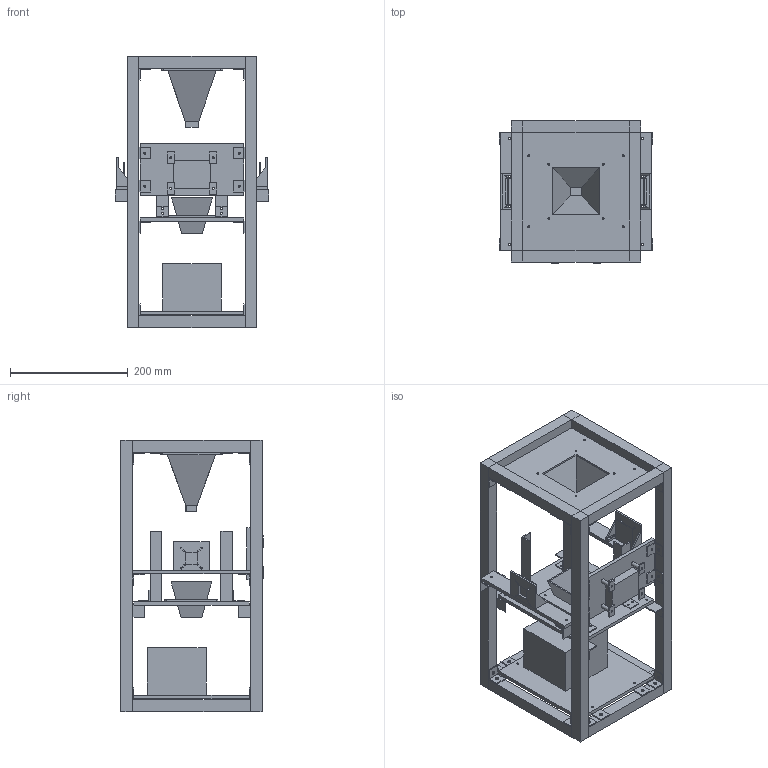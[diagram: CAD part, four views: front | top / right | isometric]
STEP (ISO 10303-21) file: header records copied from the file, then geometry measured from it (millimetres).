
FILE_DESCRIPTION(('Open CASCADE Model'),'2;1');
FILE_NAME('Open CASCADE Shape Model','2026-10-23T20:24:41',('Author'),( 'Open CASCADE'),'Open CASCADE STEP processor 7.8','Open CASCADE 7.8' ,'Unknown');
FILE_SCHEMA(('AUTOMOTIVE_DESIGN { 1 0 10303 214 1 1 1 1 }'));
Length unit declared in the file: millimetre
Products named in the file (79): H3_P5_MANUAL_MECHANICAL_REFERENCE; P13; T01; T02; T03; T04; T05; T06; T07; T08; T09; T10; T11; T12; W01; W03; F05; F06; F07; F08; A01; A02; A03; A04; A09; A10; A11; A12; BCL1; BST1; BCL2; BST2; BCL3; BST3; BCL4; BST4; FC_X_011; FC_Y_011; FC_X_010; FC_Y_010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
Assembly tree (78 placements, depth 2):
  H3_P5_MANUAL_MECHANICAL_REFERENCE
    P13
    T01
    T02
    T03
    T04
    T05
    T06
    T07
    T08
    T09
    T10
    T11
    T12
    W01
    W03
    F05
    F06
    F07
    F08
    A01
    A02
    A03
    A04
    A09
    A10
    A11
    A12
    BCL1
    BST1
    BCL2
    BST2
    BCL3
    BST3
    BCL4
    BST4
    FC_X_011
    FC_Y_011
    FC_X_010
    FC_Y_010
    FC_X_001
    FC_Y_001
    FC_X_000
    FC_Y_000
    FC_X_111
    FC_Y_111
    FC_X_110
    FC_Y_110
    FC_X_101
    FC_Y_101
    FC_X_100
    FC_Y_100
    H01
    H21
    W02
    C01
    P11
    F01
    F02
    F03
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Bounding box: 260 x 242 x 460 mm (x, y, z)
Volume: 3091735.1 mm3; surface area: 847527.3 mm2
Topology: 78 solids, 78 shells, 820 faces, 2000 edges, 1332 vertices
Faces by surface type: plane 604, cylinder 196, bspline 20
Full cylindrical faces by diameter (mm): 3.2 x4, 3.4 x92, 5.5 x60, 7 x4
Entity records: 51858 total; most frequent: CARTESIAN_POINT 8735, DIRECTION 7944, LINE 5032, VECTOR 5032, ORIENTED_EDGE 4000, PCURVE 4000, DEFINITIONAL_REPRESENTATION 4000, EDGE_CURVE 2000
